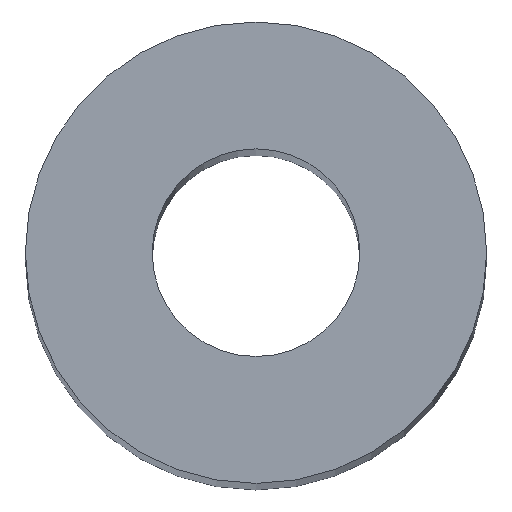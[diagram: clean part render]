
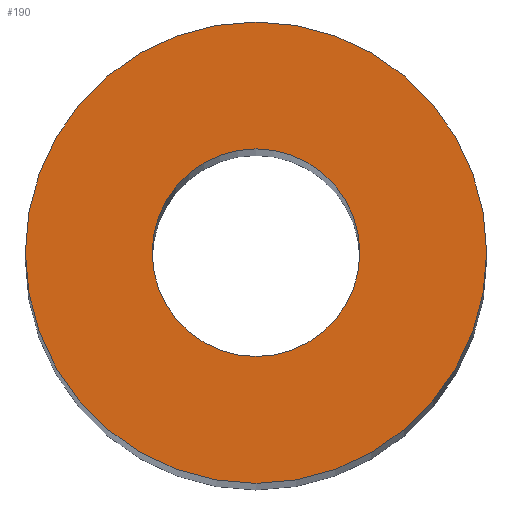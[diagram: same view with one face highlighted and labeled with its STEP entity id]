
A CAD part, top view. The second image highlights one B-rep face of the part: STEP entity #190.
In plain terms, the highlighted planar face has unit normal (0, 0, 1).
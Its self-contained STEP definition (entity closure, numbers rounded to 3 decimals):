
#24 = VERTEX_POINT('',#25);
#25 = CARTESIAN_POINT('',(5.,0.,82.));
#32 = CYLINDRICAL_SURFACE('',#33,5.);
#33 = AXIS2_PLACEMENT_3D('',#34,#35,#36);
#34 = CARTESIAN_POINT('',(0.,0.,0.));
#35 = DIRECTION('',(-0.,-0.,-1.));
#36 = DIRECTION('',(1.,0.,0.));
#51 = EDGE_CURVE('',#24,#24,#52,.T.);
#52 = SURFACE_CURVE('',#53,(#58,#65),.PCURVE_S1.);
#53 = CIRCLE('',#54,5.);
#54 = AXIS2_PLACEMENT_3D('',#55,#56,#57);
#55 = CARTESIAN_POINT('',(0.,0.,82.));
#56 = DIRECTION('',(0.,0.,1.));
#57 = DIRECTION('',(1.,0.,0.));
#58 = PCURVE('',#32,#59);
#59 = DEFINITIONAL_REPRESENTATION('',(#60),#64);
#60 = LINE('',#61,#62);
#61 = CARTESIAN_POINT('',(-0.,-82.));
#62 = VECTOR('',#63,1.);
#63 = DIRECTION('',(-1.,0.));
#64 = ( GEOMETRIC_REPRESENTATION_CONTEXT(2) 
PARAMETRIC_REPRESENTATION_CONTEXT() REPRESENTATION_CONTEXT('2D SPACE',''
  ) );
#65 = PCURVE('',#66,#71);
#66 = PLANE('',#67);
#67 = AXIS2_PLACEMENT_3D('',#68,#69,#70);
#68 = CARTESIAN_POINT('',(0.,0.,82.));
#69 = DIRECTION('',(0.,0.,1.));
#70 = DIRECTION('',(1.,0.,-0.));
#71 = DEFINITIONAL_REPRESENTATION('',(#72),#76);
#72 = CIRCLE('',#73,5.);
#73 = AXIS2_PLACEMENT_2D('',#74,#75);
#74 = CARTESIAN_POINT('',(0.,0.));
#75 = DIRECTION('',(1.,0.));
#76 = ( GEOMETRIC_REPRESENTATION_CONTEXT(2) 
PARAMETRIC_REPRESENTATION_CONTEXT() REPRESENTATION_CONTEXT('2D SPACE',''
  ) );
#112 = VERTEX_POINT('',#113);
#113 = CARTESIAN_POINT('',(2.25,0.,82.));
#120 = CYLINDRICAL_SURFACE('',#121,2.25);
#121 = AXIS2_PLACEMENT_3D('',#122,#123,#124);
#122 = CARTESIAN_POINT('',(0.,0.,0.));
#123 = DIRECTION('',(-0.,-0.,-1.));
#124 = DIRECTION('',(1.,0.,0.));
#139 = EDGE_CURVE('',#112,#112,#140,.T.);
#140 = SURFACE_CURVE('',#141,(#146,#153),.PCURVE_S1.);
#141 = CIRCLE('',#142,2.25);
#142 = AXIS2_PLACEMENT_3D('',#143,#144,#145);
#143 = CARTESIAN_POINT('',(0.,0.,82.));
#144 = DIRECTION('',(0.,0.,1.));
#145 = DIRECTION('',(1.,0.,0.));
#146 = PCURVE('',#120,#147);
#147 = DEFINITIONAL_REPRESENTATION('',(#148),#152);
#148 = LINE('',#149,#150);
#149 = CARTESIAN_POINT('',(-0.,-82.));
#150 = VECTOR('',#151,1.);
#151 = DIRECTION('',(-1.,0.));
#152 = ( GEOMETRIC_REPRESENTATION_CONTEXT(2) 
PARAMETRIC_REPRESENTATION_CONTEXT() REPRESENTATION_CONTEXT('2D SPACE',''
  ) );
#153 = PCURVE('',#66,#154);
#154 = DEFINITIONAL_REPRESENTATION('',(#155),#159);
#155 = CIRCLE('',#156,2.25);
#156 = AXIS2_PLACEMENT_2D('',#157,#158);
#157 = CARTESIAN_POINT('',(0.,0.));
#158 = DIRECTION('',(1.,0.));
#159 = ( GEOMETRIC_REPRESENTATION_CONTEXT(2) 
PARAMETRIC_REPRESENTATION_CONTEXT() REPRESENTATION_CONTEXT('2D SPACE',''
  ) );
#190 = ADVANCED_FACE('',(#191,#194),#66,.T.);
#191 = FACE_BOUND('',#192,.T.);
#192 = EDGE_LOOP('',(#193));
#193 = ORIENTED_EDGE('',*,*,#51,.T.);
#194 = FACE_BOUND('',#195,.T.);
#195 = EDGE_LOOP('',(#196));
#196 = ORIENTED_EDGE('',*,*,#139,.F.);
